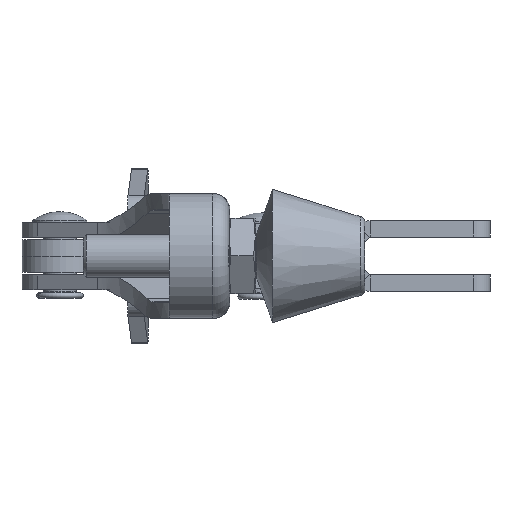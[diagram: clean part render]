
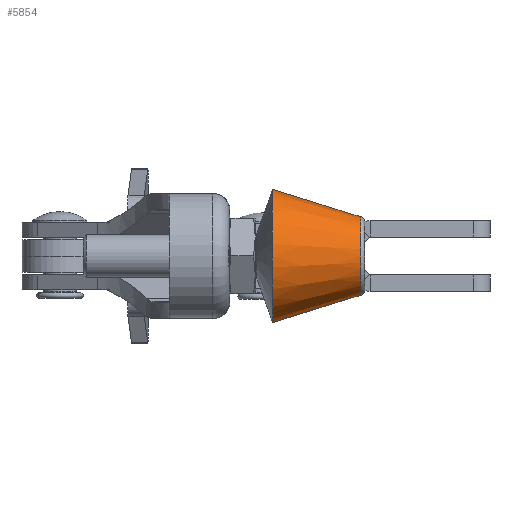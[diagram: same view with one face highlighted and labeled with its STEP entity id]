
A CAD part, left-side view. The second image highlights one B-rep face of the part: STEP entity #5854.
In plain terms, the highlighted conical face has half-angle 17.316 degrees and reference radius 6.15 mm.
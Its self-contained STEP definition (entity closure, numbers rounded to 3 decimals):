
#138 = VERTEX_POINT ( 'NONE', #958 ) ;
#636 = VERTEX_POINT ( 'NONE', #4654 ) ;
#739 = AXIS2_PLACEMENT_3D ( 'NONE', #5405, #757, #6697 ) ;
#757 = DIRECTION ( 'NONE',  ( 0., 1., 0. ) ) ;
#958 = CARTESIAN_POINT ( 'NONE',  ( 0., 0.351, -3.609 ) ) ;
#1170 = CONICAL_SURFACE ( 'NONE', #739, 6.15, 0.302 ) ;
#2027 = EDGE_LOOP ( 'NONE', ( #2318, #4286, #7766, #6347 ) ) ;
#2318 = ORIENTED_EDGE ( 'NONE', *, *, #4413, .F. ) ;
#2390 = DIRECTION ( 'NONE',  ( 0., -1., 0. ) ) ;
#2650 = EDGE_CURVE ( 'NONE', #636, #3115, #6311, .T. ) ;
#2663 = AXIS2_PLACEMENT_3D ( 'NONE', #3387, #8069, #4077 ) ;
#3115 = VERTEX_POINT ( 'NONE', #7774 ) ;
#3387 = CARTESIAN_POINT ( 'NONE',  ( 0., 0.351, 0. ) ) ;
#4034 = EDGE_CURVE ( 'NONE', #3115, #5932, #6078, .T. ) ;
#4077 = DIRECTION ( 'NONE',  ( 0., 0., -1. ) ) ;
#4284 = CARTESIAN_POINT ( 'NONE',  ( 0., 8.5, -6.15 ) ) ;
#4286 = ORIENTED_EDGE ( 'NONE', *, *, #7942, .T. ) ;
#4351 = DIRECTION ( 'NONE',  ( 0., 0.955, 0.298 ) ) ;
#4413 = EDGE_CURVE ( 'NONE', #138, #5932, #7527, .T. ) ;
#4489 = CARTESIAN_POINT ( 'NONE',  ( 0., 8.5, -6.15 ) ) ;
#4654 = CARTESIAN_POINT ( 'NONE',  ( 0., 0.351, 3.609 ) ) ;
#4737 = VECTOR ( 'NONE', #4351, 1000. ) ;
#5333 = VECTOR ( 'NONE', #8584, 1000. ) ;
#5405 = CARTESIAN_POINT ( 'NONE',  ( 0., 8.5, 0. ) ) ;
#5854 = ADVANCED_FACE ( 'NONE', ( #6458 ), #1170, .T. ) ;
#5932 = VERTEX_POINT ( 'NONE', #4284 ) ;
#6078 = CIRCLE ( 'NONE', #8433, 6.15 ) ;
#6311 = LINE ( 'NONE', #7248, #4737 ) ;
#6347 = ORIENTED_EDGE ( 'NONE', *, *, #4034, .T. ) ;
#6458 = FACE_OUTER_BOUND ( 'NONE', #2027, .T. ) ;
#6697 = DIRECTION ( 'NONE',  ( 0., 0., 1. ) ) ;
#7248 = CARTESIAN_POINT ( 'NONE',  ( 0., 8.5, 6.15 ) ) ;
#7466 = DIRECTION ( 'NONE',  ( 0., 0., -1. ) ) ;
#7527 = LINE ( 'NONE', #4489, #5333 ) ;
#7566 = CARTESIAN_POINT ( 'NONE',  ( 0., 8.5, 0. ) ) ;
#7766 = ORIENTED_EDGE ( 'NONE', *, *, #2650, .T. ) ;
#7774 = CARTESIAN_POINT ( 'NONE',  ( 0., 8.5, 6.15 ) ) ;
#7942 = EDGE_CURVE ( 'NONE', #138, #636, #8008, .T. ) ;
#8008 = CIRCLE ( 'NONE', #2663, 3.609 ) ;
#8069 = DIRECTION ( 'NONE',  ( 0., 1., 0. ) ) ;
#8433 = AXIS2_PLACEMENT_3D ( 'NONE', #7566, #2390, #7466 ) ;
#8584 = DIRECTION ( 'NONE',  ( 0., 0.955, -0.298 ) ) ;
